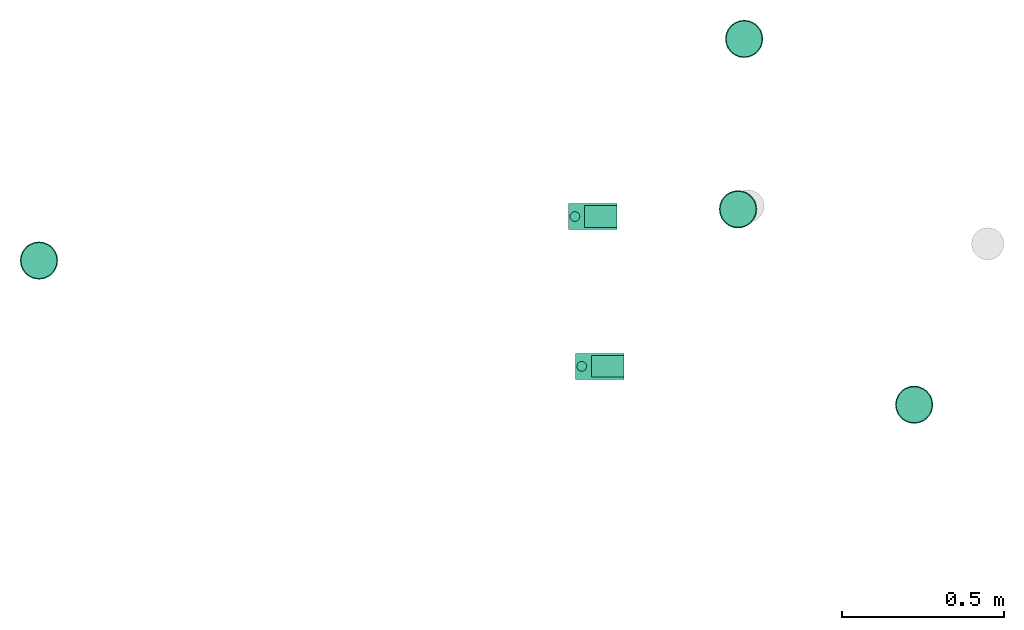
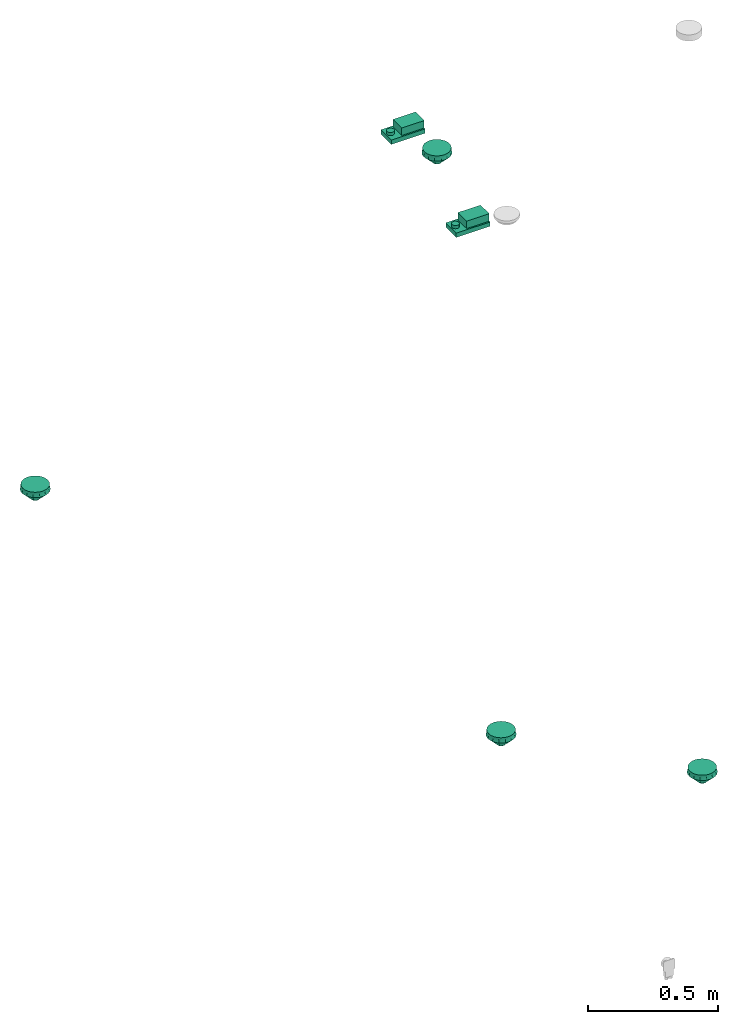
# One storey, part 1 of 3: 6 distribution control elements.
"""IFC2X3 building model written with IfcOpenShell, lengths in millimetres."""

from ifc_helpers import new_model, entity, si_unit, converted_unit, derived_unit, direction, frame, origin_with_axes, place, context, subcontext, project, spatial, open_shell, surface_model, source, transform, mapped, type_object, element, save


model = new_model("IFC2X3")

# Units and contexts
model_context = context("Model", 3, precision=0.01, world=frame((0.0, 4.29681676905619e-09, 0.0)), true_north=direction((4.01073788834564e-13, 1.0)))
plan_context = context("Plan", 3, precision=0.01, world=frame((0.0, 4.29681676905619e-09, 0.0)), true_north=direction((4.01073788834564e-13, 1.0)))
body_context = subcontext(model_context, "Body", "Model", "MODEL_VIEW")
ifc_project = project(units=[converted_unit("PLANEANGLEUNIT", "DEGREE", entity("IfcPositiveLengthMeasure", 0.0174532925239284), si_unit("PLANEANGLEUNIT", "RADIAN"), dimensions=[0, 0, 0, 0, 0, 0, 0]), si_unit("AREAUNIT", "SQUARE_METRE"), si_unit("LENGTHUNIT", "METRE", prefix="MILLI"), si_unit("MASSUNIT", "GRAM", prefix="KILO"), si_unit("POWERUNIT", "WATT"), si_unit("PRESSUREUNIT", "PASCAL", prefix="KILO"), si_unit("FORCEUNIT", "NEWTON", prefix="KILO"), si_unit("ELECTRICVOLTAGEUNIT", "VOLT"), si_unit("ELECTRICCURRENTUNIT", "AMPERE"), si_unit("THERMODYNAMICTEMPERATUREUNIT", "DEGREE_CELSIUS"), si_unit("TIMEUNIT", "SECOND"), si_unit("VOLUMEUNIT", "CUBIC_METRE"), derived_unit("LINEARVELOCITYUNIT", [(si_unit("LENGTHUNIT", "METRE"), 1), (si_unit("TIMEUNIT", "SECOND"), -1)]), derived_unit("VOLUMETRICFLOWRATEUNIT", [(si_unit("VOLUMEUNIT", "CUBIC_METRE"), 1), (si_unit("TIMEUNIT", "SECOND"), -1)]), derived_unit("THERMALTRANSMITTANCEUNIT", [(si_unit("POWERUNIT", "WATT"), 1), (si_unit("THERMODYNAMICTEMPERATUREUNIT", "KELVIN"), -1), (si_unit("AREAUNIT", "SQUARE_METRE"), -1)]), derived_unit("SOUNDPRESSUREUNIT", [(si_unit("PRESSUREUNIT", "PASCAL"), 1)])], contexts=[model_context, plan_context])

# Site, building, storey
site_placement = place(None, frame((0.0, -4.29681676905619e-09, 0.0), z_axis=(0.0, 0.0, 1.0), x_axis=(1.0, 0.0, 0.0)))
site = spatial("IfcSite", under=ifc_project, at=site_placement, Name="ENGM", CompositionType="ELEMENT")
building_placement = place(site_placement, frame((0.0, 4.29681676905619e-09, 0.0), z_axis=(0.0, 0.0, 1.0), x_axis=(1.0, 0.0, 0.0)))
building = spatial("IfcBuilding", under=site, at=building_placement, Name="TS", CompositionType="ELEMENT")
storey_placement = place(building_placement, frame((0.0, 0.0, 204000.0), z_axis=(0.0, 0.0, 1.0), x_axis=(1.0, 0.0, 0.0)))
storey = spatial("IfcBuildingStorey", under=building, at=storey_placement, Name="Nivå D", CompositionType="ELEMENT", Elevation=204000.0)

# Distribution control elements
alarm_type_1 = type_object("IfcAlarmType", Name="Standard", PredefinedType="NOTDEFINED")
shared_shape_1 = source(origin_with_axes(), body_context, "Body", "SurfaceModel", [
    surface_model("IfcShellBasedSurfaceModel", [(8.775, -15.19875, -64.9), (-12.40972, -12.40972, -64.9), (4.54227, -16.952, -64.9), (15.19875, -8.775, -64.9), (12.40972, -12.40972, -64.9), (16.952, -4.54227, -64.9), (-4.54227, 16.952, -64.9), (-16.952, -4.54227, -64.9), (0.0, -17.55, -64.9), (-8.775, -15.19875, -64.9), (-4.54227, -16.952, -64.9), (-15.19875, -8.775, -64.9), (17.55, 0.0, -64.9), (15.19875, 8.775, -64.9), (16.952, 4.54227, -64.9), (0.0, 17.55, -64.9), (12.40972, 12.40972, -64.9), (4.54227, 16.952, -64.9), (8.775, 15.19875, -64.9), (-17.55, 0.0, -64.9), (-15.19875, 8.775, -64.9), (-16.952, 4.54227, -64.9), (-12.40972, 12.40972, -64.9), (-8.775, 15.19875, -64.9), (16.952, 4.54227, -65.1), (0.0, 17.55, -65.1), (4.54227, 16.952, -65.1), (12.40972, 12.40972, -65.1), (8.775, 15.19875, -65.1), (15.19875, 8.775, -65.1), (-12.40972, 12.40972, -65.1), (-4.54227, 16.952, -65.1), (-8.775, 15.19875, -65.1), (-15.19875, 8.775, -65.1), (-17.55, 0.0, -65.1), (-16.952, 4.54227, -65.1), (-16.952, -4.54227, -65.1), (16.952, -4.54227, -65.1), (8.775, -15.19875, -65.1), (15.19875, -8.775, -65.1), (12.40972, -12.40972, -65.1), (-12.40972, -12.40972, -65.1), (4.54227, -16.952, -65.1), (-15.19875, -8.775, -65.1), (-8.775, -15.19875, -65.1), (0.0, -17.55, -65.1), (-4.54227, -16.952, -65.1), (17.55, 0.0, -65.1), (-36.47415, 45.73714, -22.75), (-52.70668, 25.3822, -22.75), (-58.5, 0.0, -22.75), (52.70668, 25.3822, -22.75), (13.01748, 57.03328, -22.75), (-13.01748, 57.03328, -22.75), (36.47415, 45.73714, -22.75), (-52.70668, -25.3822, -22.75), (-36.47415, -45.73714, -22.75), (-13.01748, -57.03328, -22.75), (36.47415, -45.73714, -22.75), (52.70668, -25.3822, -22.75), (58.5, 0.0, -22.75), (13.01748, -57.03328, -22.75), (0.0, 17.55, -65.0), (12.40972, 12.40972, -65.0), (-12.40972, 12.40972, -65.0), (-12.40972, -12.40972, -65.0), (-17.55, 0.0, -65.0), (17.55, 0.0, -65.0), (12.40972, -12.40972, -65.0), (0.0, -17.55, -65.0), (-44.59042, -35.55967, -22.75), (-13.69479, -9.30729, -65.0), (55.60334, -12.6911, -22.75), (14.97986, -6.20486, -65.0), (16.26493, -3.10243, -65.0), (-9.30729, -13.69479, -65.0), (-6.20486, -14.97986, -65.0), (-24.74581, -51.38521, -22.75), (-14.97986, -6.20486, -65.0), (24.74581, -51.38521, -22.75), (9.30729, -13.69479, -65.0), (-55.60334, -12.6911, -22.75), (-16.26493, -3.10243, -65.0), (-3.10243, -16.26493, -65.0), (3.10243, -16.26493, -65.0), (0.0, -57.03328, -22.75), (44.59042, -35.55967, -22.75), (13.69479, -9.30729, -65.0), (6.20486, -14.97986, -65.0), (44.59042, 35.55967, -22.75), (13.69479, 9.30729, -65.0), (-55.60334, 12.6911, -22.75), (-14.97986, 6.20486, -65.0), (-16.26493, 3.10243, -65.0), (9.30729, 13.69479, -65.0), (6.20486, 14.97986, -65.0), (24.74581, 51.38521, -22.75), (14.97986, 6.20486, -65.0), (-24.74581, 51.38521, -22.75), (-9.30729, 13.69479, -65.0), (55.60334, 12.6911, -22.75), (16.26493, 3.10243, -65.0), (3.10243, 16.26493, -65.0), (-3.10243, 16.26493, -65.0), (0.0, 57.03328, -22.75), (-44.59042, 35.55967, -22.75), (-13.69479, 9.30729, -65.0), (-6.20486, 14.97986, -65.0), (-28.275, 48.97374, -16.25), (-32.41056, 45.80041, -16.25), (-13.88456, 54.72206, -16.25), (-49.79102, 26.30191, -16.25), (-39.98689, 39.98689, -16.25), (-48.97374, 28.275, -16.25), (-37.1285, 42.18021, -16.25), (-35.38305, 44.36894, -16.25), (-56.2774, 2.07059, -16.25), (-56.75, 0.0, -16.25), (-56.55, 0.0, -16.25), (-51.91976, 21.16268, -16.25), (-51.12998, 24.6229, -16.25), (-54.62311, 14.63622, -16.25), (28.275, 48.97374, -16.25), (14.63622, 54.62311, -16.25), (13.88456, 54.72206, -16.25), (54.62311, -14.63622, -16.25), (56.2774, -2.07059, -16.25), (51.91976, -21.16268, -16.25), (12.62806, 55.32716, -16.25), (9.2884, 55.32716, -16.25), (49.79102, 26.30191, -16.25), (39.98689, 39.98689, -16.25), (37.1285, 42.18021, -16.25), (56.55, 0.0, -16.25), (56.75, 0.0, -16.25), (56.2774, 2.07059, -16.25), (39.98689, -39.98689, -16.25), (49.79102, -26.30191, -16.25), (37.1285, -42.18021, -16.25), (35.38305, 44.36894, -16.25), (32.41056, 45.80041, -16.25), (35.38305, -44.36894, -16.25), (32.41056, -45.80041, -16.25), (-56.2774, -2.07059, -16.25), (-49.79102, -26.30191, -16.25), (-51.91976, -21.16268, -16.25), (-51.12998, -24.6229, -16.25), (-37.1285, -42.18021, -16.25), (-35.38305, -44.36894, -16.25), (-32.41056, -45.80041, -16.25), (-13.88456, -54.72206, -16.25), (-28.275, -48.97374, -16.25), (-14.63622, -54.62311, -16.25), (51.12998, -24.6229, -16.25), (-39.98689, -39.98689, -16.25), (-48.97374, -28.275, -16.25), (-9.2884, 55.32716, -16.25), (-12.62806, 55.32716, -16.25), (28.275, -48.97374, -16.25), (13.88456, -54.72206, -16.25), (14.63622, -54.62311, -16.25), (48.97374, -28.275, -16.25), (12.62806, -55.32716, -16.25), (9.2884, -55.32716, -16.25), (0.0, -56.55, -16.25), (-9.2884, -55.32716, -16.25), (-12.62806, -55.32716, -16.25), (-54.62311, -14.63622, -16.25), (-14.63622, 54.62311, -16.25), (0.0, 56.55, -16.25), (48.97374, 28.275, -16.25), (51.91976, 21.16268, -16.25), (51.12998, 24.6229, -16.25), (54.62311, 14.63622, -16.25), (29.15, 50.48928, -22.75), (33.43697, 47.19977, -22.75), (14.29509, 56.41801, -22.75), (51.34019, 27.09572, -22.75), (41.22432, 41.22432, -22.75), (50.48928, 29.15, -22.75), (58.0274, 2.07059, -22.75), (58.3, 0.0, -22.75), (38.25759, 43.50078, -22.75), (-33.43697, 47.19977, -22.75), (-38.25759, 43.50078, -22.75), (56.31348, 15.08915, -22.75), (53.51269, 21.85086, -22.75), (-14.29509, -56.41801, -22.75), (-9.62167, -57.03328, -22.75), (-29.15, 50.48928, -22.75), (-15.08915, 56.31348, -22.75), (-14.29509, 56.41801, -22.75), (-56.31348, -15.08915, -22.75), (-58.0274, -2.07059, -22.75), (-53.51269, -21.85086, -22.75), (-9.62167, 57.03328, -22.75), (-51.34019, 27.09572, -22.75), (-41.22432, 41.22432, -22.75), (-41.22432, -41.22432, -22.75), (-51.34019, -27.09572, -22.75), (-38.25759, -43.50078, -22.75), (-58.3, 0.0, -22.75), (-58.0274, 2.07059, -22.75), (58.0274, -2.07059, -22.75), (-33.43697, -47.19977, -22.75), (51.34019, -27.09572, -22.75), (53.51269, -21.85086, -22.75), (41.22432, -41.22432, -22.75), (38.25759, -43.50078, -22.75), (29.15, -50.48928, -22.75), (15.08915, -56.31348, -22.75), (14.29509, -56.41801, -22.75), (9.62167, -57.03328, -22.75), (33.43697, -47.19977, -22.75), (50.48928, -29.15, -22.75), (9.62167, 57.03328, -22.75), (-29.15, -50.48928, -22.75), (-15.08915, -56.31348, -22.75), (-50.48928, -29.15, -22.75), (0.0, -58.3, -22.75), (56.31348, -15.08915, -22.75), (15.08915, 56.31348, -22.75), (0.0, 58.3, -22.75), (-50.48928, 29.15, -22.75), (-53.51269, 21.85086, -22.75), (-56.31348, 15.08915, -22.75), (53.15004, -15.77246, -16.25), (43.25652, -34.49592, -16.25), (-54.78902, -16.25884, -22.75), (-53.93999, -12.31145, -16.25), (24.00555, -49.84805, -16.25), (0.0, -55.32716, -16.25), (-24.00555, -49.84805, -16.25), (-43.25652, -34.49592, -16.25), (-53.15004, 15.77246, -16.25), (-43.25652, 34.49592, -16.25), (54.78902, 16.25884, -22.75), (53.93999, 12.31145, -16.25), (-24.00555, 49.84805, -16.25), (0.0, 55.32716, -16.25), (24.00555, 49.84805, -16.25), (43.25652, 34.49592, -16.25), (-27.65, 47.8912, -9.75), (-31.6774, 44.80087, -9.75), (-13.59132, 53.51067, -9.75), (-48.68446, 25.73491, -9.75), (-39.103, 39.103, -9.75), (-47.8912, 27.65, -9.75), (-34.60368, 43.39165, -9.75), (-36.322, 41.23694, -9.75), (-55.0274, 2.07059, -9.75), (-55.5, 0.0, -9.75), (-55.3, 0.0, -9.75), (-50.00377, 24.08055, -9.75), (-50.78195, 20.67112, -9.75), (-53.4157, 14.31269, -9.75), (27.65, 47.8912, -9.75), (14.31269, 53.4157, -9.75), (13.59132, 53.51067, -9.75), (53.4157, -14.31269, -9.75), (55.0274, -2.07059, -9.75), (50.78195, -20.67112, -9.75), (9.05035, 54.1085, -9.75), (12.34991, 54.1085, -9.75), (48.68446, 25.73491, -9.75), (39.103, 39.103, -9.75), (36.322, 41.23694, -9.75), (39.103, -39.103, -9.75), (48.68446, -25.73491, -9.75), (36.322, -41.23694, -9.75), (34.60368, 43.39165, -9.75), (31.6774, 44.80087, -9.75), (55.0274, 2.07059, -9.75), (55.3, 0.0, -9.75), (55.5, 0.0, -9.75), (34.60368, -43.39165, -9.75), (31.6774, -44.80087, -9.75), (-55.0274, -2.07059, -9.75), (-48.68446, -25.73491, -9.75), (-50.78195, -20.67112, -9.75), (-50.00377, -24.08055, -9.75), (-12.34991, -54.1085, -9.75), (-9.05035, -54.1085, -9.75), (-13.59132, -53.51067, -9.75), (-27.65, -47.8912, -9.75), (-14.31269, -53.4157, -9.75), (50.00377, -24.08055, -9.75), (-31.6774, -44.80087, -9.75), (-39.103, -39.103, -9.75), (-36.322, -41.23694, -9.75), (-47.8912, -27.65, -9.75), (-9.05035, 54.1085, -9.75), (-12.34991, 54.1085, -9.75), (27.65, -47.8912, -9.75), (13.59132, -53.51067, -9.75), (14.31269, -53.4157, -9.75), (47.8912, -27.65, -9.75), (0.0, -55.3, -9.75), (9.05035, -54.1085, -9.75), (12.34991, -54.1085, -9.75), (-34.60368, -43.39165, -9.75), (-53.4157, -14.31269, -9.75), (-14.31269, 53.4157, -9.75), (0.0, 55.3, -9.75), (47.8912, 27.65, -9.75), (50.78195, 20.67112, -9.75), (50.00377, 24.08055, -9.75), (53.4157, 14.31269, -9.75), (51.93259, -15.62982, -9.75), (42.30373, -33.7361, -9.75), (-53.10225, -15.98184, -16.25), (-52.75189, -12.04027, -9.75), (23.4768, -48.75007, -9.75), (53.93999, -12.31145, -16.25), (0.0, -54.1085, -9.75), (-23.4768, -48.75007, -9.75), (-42.30373, -33.7361, -9.75), (-51.93259, 15.62982, -9.75), (-42.30373, 33.7361, -9.75), (53.10225, 15.98184, -16.25), (52.75189, 12.04027, -9.75), (-23.4768, 48.75007, -9.75), (-53.93999, 12.31145, -16.25), (0.0, 54.1085, -9.75), (23.4768, 48.75007, -9.75), (42.30373, 33.7361, -9.75), (14.36446, -53.60888, 0.0), (27.75, -48.06441, 0.0), (39.24443, -39.24443, 0.0), (0.0, -55.5, 0.0), (48.06441, -27.75, 0.0), (53.60888, -14.36446, 0.0), (55.5, 0.0, 0.0), (-27.75, -48.06441, 0.0), (-14.36446, -53.60888, 0.0), (-48.06441, -27.75, 0.0), (-39.24443, -39.24443, 0.0), (-53.60888, -14.36446, 0.0), (48.06441, 27.75, 0.0), (14.36446, 53.60888, 0.0), (39.24443, 39.24443, 0.0), (0.0, 55.5, 0.0), (27.75, 48.06441, 0.0), (-27.75, 48.06441, 0.0), (-55.5, 0.0, 0.0), (-48.06441, 27.75, 0.0), (-53.60888, 14.36446, 0.0), (-39.24443, 39.24443, 0.0), (-14.36446, 53.60888, 0.0), (53.60888, 14.36446, 0.0), (14.36446, 53.60888, -9.75), (-27.75, 48.06441, -9.75), (0.0, 55.5, -9.75), (39.24443, 39.24443, -9.75), (27.75, 48.06441, -9.75), (48.06441, 27.75, -9.75), (53.60888, 14.36446, -9.75), (-48.06441, 27.75, -9.75), (-39.24443, 39.24443, -9.75), (-14.36446, 53.60888, -9.75), (-53.60888, 14.36446, -9.75), (53.60888, -14.36446, -9.75), (48.06441, -27.75, -9.75), (-53.60888, -14.36446, -9.75), (39.24443, -39.24443, -9.75), (27.75, -48.06441, -9.75), (14.36446, -53.60888, -9.75), (-27.75, -48.06441, -9.75), (-48.06441, -27.75, -9.75), (-39.24443, -39.24443, -9.75), (0.0, -55.5, -9.75), (-14.36446, -53.60888, -9.75)], [open_shell([[[0, 1, 2]], [[3, 0, 4]], [[0, 5, 1]], [[5, 0, 3]], [[5, 6, 7]], [[8, 9, 10]], [[9, 8, 1]], [[1, 7, 11]], [[1, 8, 2]], [[5, 7, 1]], [[5, 12, 6]], [[13, 6, 14]], [[15, 13, 16]], [[17, 15, 16]], [[17, 16, 18]], [[6, 13, 15]], [[19, 20, 21]], [[19, 7, 20]], [[22, 6, 23]], [[7, 22, 20]], [[6, 22, 7]], [[12, 14, 6]], [[24, 25, 26]], [[27, 26, 28]], [[29, 24, 26]], [[29, 26, 27]], [[25, 24, 30]], [[31, 30, 32]], [[31, 25, 30]], [[33, 34, 35]], [[36, 34, 33]], [[33, 30, 36]], [[30, 24, 37]], [[36, 30, 37]], [[38, 37, 39]], [[36, 37, 38]], [[38, 39, 40]], [[41, 38, 42]], [[36, 41, 43]], [[36, 38, 41]], [[44, 45, 46]], [[45, 44, 41]], [[42, 45, 41]], [[37, 24, 47]], [[36, 7, 34]], [[43, 11, 36]], [[9, 41, 44]], [[43, 41, 1]], [[10, 44, 46]], [[36, 11, 7]], [[7, 19, 34]], [[10, 9, 44]], [[1, 41, 9]], [[1, 11, 43]], [[8, 10, 46]], [[46, 45, 8]], [[42, 2, 45]], [[38, 0, 42]], [[3, 40, 39]], [[38, 40, 4]], [[5, 39, 37]], [[38, 4, 0]], [[0, 2, 42]], [[12, 5, 37]], [[3, 39, 5]], [[3, 4, 40]], [[47, 12, 37]], [[45, 2, 8]], [[24, 14, 47]], [[29, 13, 24]], [[18, 27, 28]], [[29, 27, 16]], [[17, 28, 26]], [[24, 13, 14]], [[14, 12, 47]], [[17, 18, 28]], [[16, 27, 18]], [[16, 13, 29]], [[15, 17, 26]], [[26, 25, 15]], [[31, 6, 25]], [[32, 23, 31]], [[20, 30, 33]], [[32, 30, 22]], [[21, 33, 35]], [[32, 22, 23]], [[23, 6, 31]], [[19, 21, 35]], [[20, 33, 21]], [[20, 22, 30]], [[34, 19, 35]], [[25, 6, 15]], [[48, 49, 50]], [[48, 50, 51]], [[52, 53, 51]], [[51, 54, 52]], [[53, 48, 51]], [[50, 55, 51]], [[55, 56, 57]], [[57, 58, 51]], [[59, 60, 58]], [[60, 51, 58]], [[57, 61, 58]], [[51, 55, 57]], [[62, 63, 64]], [[65, 66, 64]], [[64, 63, 65]], [[67, 68, 69]], [[69, 65, 67]], [[67, 65, 63]], [[65, 70, 71]], [[72, 73, 74]], [[75, 76, 77]], [[55, 78, 71]], [[79, 80, 58]], [[78, 55, 81]], [[81, 82, 78]], [[57, 76, 83]], [[84, 85, 69]], [[59, 73, 72]], [[55, 71, 70]], [[69, 85, 83]], [[60, 74, 67]], [[68, 86, 58]], [[86, 68, 87]], [[56, 65, 75]], [[87, 59, 86]], [[60, 72, 74]], [[65, 56, 70]], [[66, 82, 50]], [[50, 82, 81]], [[56, 75, 77]], [[80, 79, 88]], [[61, 84, 88]], [[80, 68, 58]], [[87, 73, 59]], [[76, 57, 77]], [[85, 84, 61]], [[57, 83, 85]], [[79, 61, 88]], [[63, 89, 90]], [[91, 92, 93]], [[94, 95, 96]], [[51, 97, 90]], [[98, 99, 48]], [[97, 51, 100]], [[100, 101, 97]], [[52, 95, 102]], [[103, 104, 62]], [[49, 92, 91]], [[51, 90, 89]], [[62, 104, 102]], [[50, 93, 66]], [[64, 105, 48]], [[105, 64, 106]], [[54, 63, 94]], [[106, 49, 105]], [[50, 91, 93]], [[63, 54, 89]], [[67, 101, 60]], [[60, 101, 100]], [[54, 94, 96]], [[99, 98, 107]], [[53, 103, 107]], [[99, 64, 48]], [[106, 92, 49]], [[95, 52, 96]], [[104, 103, 53]], [[52, 102, 104]], [[98, 53, 107]], [[108, 109, 110]], [[111, 112, 113]], [[114, 109, 115]], [[116, 117, 118]], [[119, 111, 120]], [[121, 116, 119]], [[122, 123, 124]], [[125, 126, 127]], [[128, 129, 124]], [[130, 131, 132]], [[133, 134, 135]], [[136, 137, 138]], [[132, 139, 140]], [[141, 138, 142]], [[112, 111, 114]], [[117, 143, 118]], [[144, 145, 146]], [[147, 148, 149]], [[150, 151, 152]], [[127, 137, 153]], [[151, 150, 149]], [[154, 147, 144]], [[154, 144, 155]], [[110, 156, 157]], [[158, 159, 160]], [[133, 126, 134]], [[161, 137, 136]], [[162, 159, 163]], [[164, 163, 165]], [[158, 142, 159]], [[150, 166, 165]], [[167, 145, 143]], [[108, 110, 168]], [[169, 156, 129]], [[122, 124, 140]], [[131, 130, 170]], [[130, 171, 172]], [[173, 171, 135]], [[174, 175, 176]], [[177, 178, 179]], [[180, 60, 181]], [[54, 182, 175]], [[48, 183, 184]], [[185, 180, 186]], [[57, 187, 188]], [[189, 190, 191]], [[192, 193, 194]], [[195, 191, 53]], [[196, 197, 184]], [[198, 199, 200]], [[51, 186, 177]], [[201, 50, 202]], [[203, 181, 60]], [[178, 177, 182]], [[204, 56, 200]], [[205, 206, 59]], [[205, 207, 208]], [[209, 210, 211]], [[212, 211, 61]], [[209, 211, 213]], [[194, 199, 55]], [[207, 205, 214]], [[215, 52, 176]], [[216, 187, 217]], [[201, 193, 50]], [[198, 218, 199]], [[208, 58, 213]], [[219, 188, 212]], [[204, 187, 216]], [[220, 206, 203]], [[174, 176, 221]], [[222, 215, 195]], [[189, 191, 183]], [[197, 196, 223]], [[196, 224, 49]], [[225, 224, 202]], [[153, 59, 226]], [[141, 86, 227]], [[228, 146, 229]], [[162, 79, 230]], [[134, 226, 72]], [[72, 60, 134]], [[226, 59, 72]], [[230, 58, 141]], [[59, 153, 227]], [[141, 58, 86]], [[85, 231, 166]], [[166, 57, 85]], [[148, 77, 232]], [[56, 233, 70]], [[146, 70, 233]], [[57, 232, 77]], [[146, 55, 70]], [[50, 229, 117]], [[162, 61, 79]], [[232, 57, 166]], [[58, 230, 79]], [[146, 228, 55]], [[56, 148, 233]], [[59, 227, 86]], [[148, 56, 77]], [[162, 231, 61]], [[50, 228, 229]], [[61, 231, 85]], [[120, 49, 234]], [[115, 105, 235]], [[236, 172, 237]], [[157, 98, 238]], [[117, 234, 91]], [[91, 50, 117]], [[234, 49, 91]], [[238, 48, 115]], [[49, 120, 235]], [[115, 48, 105]], [[104, 239, 128]], [[128, 52, 104]], [[139, 96, 240]], [[54, 241, 89]], [[172, 89, 241]], [[52, 240, 96]], [[172, 51, 89]], [[60, 237, 134]], [[157, 53, 98]], [[240, 52, 128]], [[48, 238, 98]], [[172, 236, 51]], [[54, 139, 241]], [[49, 235, 105]], [[139, 54, 96]], [[157, 239, 53]], [[60, 236, 237]], [[53, 239, 104]], [[125, 133, 181]], [[125, 220, 161]], [[158, 136, 207]], [[214, 136, 161]], [[160, 158, 209]], [[220, 125, 181]], [[214, 161, 220]], [[207, 209, 158]], [[136, 214, 207]], [[210, 160, 209]], [[210, 219, 164]], [[160, 210, 164]], [[151, 152, 217]], [[151, 216, 154]], [[167, 155, 218]], [[198, 155, 154]], [[118, 167, 192]], [[152, 219, 217]], [[151, 217, 216]], [[155, 198, 218]], [[118, 192, 201]], [[192, 167, 218]], [[198, 154, 216]], [[164, 219, 152]], [[121, 118, 201]], [[121, 225, 113]], [[108, 112, 197]], [[223, 112, 113]], [[168, 108, 189]], [[225, 121, 201]], [[223, 113, 225]], [[197, 189, 108]], [[112, 223, 197]], [[190, 168, 189]], [[190, 222, 169]], [[168, 190, 169]], [[122, 123, 221]], [[122, 174, 131]], [[173, 170, 179]], [[178, 170, 131]], [[133, 173, 185]], [[123, 222, 221]], [[122, 221, 174]], [[170, 178, 179]], [[133, 185, 181]], [[185, 173, 179]], [[178, 131, 174]], [[169, 222, 123]], [[242, 243, 244]], [[245, 246, 247]], [[243, 248, 249]], [[250, 251, 252]], [[253, 254, 245]], [[255, 250, 254]], [[256, 257, 258]], [[259, 260, 261]], [[262, 258, 263]], [[264, 265, 266]], [[267, 268, 269]], [[266, 270, 271]], [[272, 273, 274]], [[275, 269, 276]], [[246, 245, 249]], [[277, 252, 251]], [[278, 279, 280]], [[281, 282, 283]], [[283, 284, 285]], [[261, 268, 286]], [[284, 283, 287]], [[288, 289, 278]], [[288, 278, 290]], [[244, 291, 292]], [[293, 294, 295]], [[273, 260, 274]], [[268, 267, 296]], [[294, 293, 276]], [[297, 298, 282]], [[298, 299, 294]], [[300, 287, 289]], [[301, 279, 277]], [[242, 244, 302]], [[303, 291, 262]], [[256, 258, 271]], [[265, 264, 304]], [[264, 305, 306]], [[307, 305, 272]], [[122, 140, 124]], [[170, 130, 131]], [[135, 134, 133]], [[140, 139, 132]], [[172, 171, 130]], [[173, 135, 171]], [[110, 157, 156]], [[108, 168, 110]], [[167, 143, 145]], [[114, 111, 112]], [[154, 144, 147]], [[115, 109, 114]], [[116, 118, 117]], [[150, 165, 166]], [[131, 130, 132]], [[126, 133, 134]], [[137, 127, 153]], [[145, 144, 146]], [[159, 158, 160]], [[163, 159, 162]], [[158, 159, 142]], [[136, 138, 137]], [[136, 137, 161]], [[124, 129, 128]], [[151, 150, 152]], [[118, 143, 117]], [[155, 144, 154]], [[147, 149, 148]], [[164, 165, 163]], [[151, 149, 150]], [[138, 141, 142]], [[125, 127, 126]], [[122, 124, 123]], [[169, 129, 156]], [[108, 110, 109]], [[112, 111, 113]], [[111, 119, 120]], [[121, 119, 116]], [[286, 153, 308]], [[275, 227, 309]], [[310, 280, 311]], [[299, 230, 312]], [[274, 308, 313]], [[313, 134, 274]], [[308, 153, 313]], [[312, 141, 275]], [[153, 286, 309]], [[275, 141, 227]], [[231, 314, 281]], [[281, 166, 231]], [[300, 232, 315]], [[148, 316, 233]], [[280, 233, 316]], [[166, 315, 232]], [[280, 146, 233]], [[117, 311, 251]], [[299, 162, 230]], [[315, 166, 281]], [[141, 312, 230]], [[280, 310, 146]], [[148, 300, 316]], [[153, 309, 227]], [[300, 148, 232]], [[299, 314, 162]], [[117, 310, 311]], [[162, 314, 231]], [[253, 120, 317]], [[248, 235, 318]], [[319, 306, 320]], [[292, 238, 321]], [[251, 317, 322]], [[322, 117, 251]], [[317, 120, 322]], [[321, 115, 248]], [[120, 253, 318]], [[248, 115, 235]], [[239, 323, 263]], [[263, 128, 239]], [[270, 240, 324]], [[139, 325, 241]], [[306, 241, 325]], [[128, 324, 240]], [[306, 172, 241]], [[134, 320, 274]], [[292, 157, 238]], [[324, 128, 263]], [[115, 321, 238]], [[306, 319, 172]], [[139, 270, 325]], [[120, 318, 235]], [[270, 139, 240]], [[292, 323, 157]], [[134, 319, 320]], [[157, 323, 239]], [[259, 273, 133]], [[259, 125, 296]], [[293, 267, 136]], [[161, 267, 296]], [[295, 293, 158]], [[125, 259, 133]], [[161, 296, 125]], [[136, 158, 293]], [[267, 161, 136]], [[160, 295, 158]], [[160, 164, 297]], [[295, 160, 297]], [[284, 285, 152]], [[284, 151, 288]], [[301, 290, 155]], [[154, 290, 288]], [[252, 301, 167]], [[285, 164, 152]], [[284, 152, 151]], [[290, 154, 155]], [[252, 167, 118]], [[167, 301, 155]], [[154, 288, 151]], [[297, 164, 285]], [[255, 252, 118]], [[255, 121, 247]], [[242, 246, 112]], [[113, 246, 247]], [[302, 242, 108]], [[121, 255, 118]], [[113, 247, 121]], [[112, 108, 242]], [[246, 113, 112]], [[168, 302, 108]], [[168, 169, 303]], [[302, 168, 303]], [[256, 257, 123]], [[256, 122, 265]], [[307, 304, 170]], [[131, 304, 265]], [[273, 307, 173]], [[257, 169, 123]], [[256, 123, 122]], [[304, 131, 170]], [[273, 173, 133]], [[173, 307, 170]], [[131, 265, 122]], [[303, 169, 257]], [[326, 327, 328]], [[329, 326, 328]], [[330, 331, 332]], [[329, 328, 330]], [[333, 330, 332]], [[329, 333, 334]], [[329, 330, 333]], [[333, 335, 336]], [[335, 333, 337]], [[332, 337, 333]], [[332, 338, 337]], [[337, 338, 339]], [[339, 338, 340]], [[339, 341, 337]], [[339, 340, 342]], [[343, 337, 341]], [[344, 345, 346]], [[337, 345, 344]], [[345, 343, 347]], [[343, 345, 337]], [[341, 348, 343]], [[338, 332, 349]], [[350, 351, 352]], [[353, 350, 354]], [[355, 356, 350]], [[355, 350, 353]], [[357, 350, 356]], [[351, 357, 358]], [[351, 359, 352]], [[357, 251, 360]], [[357, 351, 350]], [[251, 357, 356]], [[356, 274, 251]], [[274, 361, 362]], [[363, 274, 362]], [[364, 365, 366]], [[362, 364, 363]], [[366, 367, 364]], [[368, 367, 369]], [[368, 363, 364]], [[367, 370, 371]], [[368, 364, 367]], [[366, 370, 367]], [[274, 363, 251]], [[363, 337, 251]], [[368, 335, 363]], [[333, 369, 367]], [[368, 369, 336]], [[334, 367, 371]], [[363, 335, 337]], [[337, 344, 251]], [[334, 333, 367]], [[336, 369, 333]], [[336, 335, 368]], [[329, 334, 371]], [[371, 370, 329]], [[366, 326, 370]], [[365, 327, 366]], [[330, 364, 362]], [[365, 364, 328]], [[331, 362, 361]], [[365, 328, 327]], [[327, 326, 366]], [[332, 331, 361]], [[330, 362, 331]], [[330, 328, 364]], [[274, 332, 361]], [[370, 326, 329]], [[356, 349, 274]], [[355, 338, 356]], [[342, 353, 354]], [[355, 353, 340]], [[339, 354, 350]], [[356, 338, 349]], [[349, 332, 274]], [[339, 342, 354]], [[340, 353, 342]], [[340, 338, 355]], [[341, 339, 350]], [[350, 352, 341]], [[359, 348, 352]], [[351, 343, 359]], [[345, 358, 357]], [[351, 358, 347]], [[346, 357, 360]], [[351, 347, 343]], [[343, 348, 359]], [[344, 346, 360]], [[345, 357, 346]], [[345, 347, 358]], [[251, 344, 360]], [[352, 348, 341]]])]),
])
for number, where, z_axis, x_axis, name in (
    (1, (598298.42736, 403373.24315, 0.0), (0.0, 0.0, 1.0), (1.0, 0.0, 0.0), "Standard"),
    (2, (597755.31934, 403975.84706, 0.0), (0.0, 0.0, 1.0), (1.0, 0.0, 0.0), "Standard"),
    (3, (597774.21314, 404501.08552, 2400.0), (0.0, 0.0, 1.0), (1.0, 0.0, 0.0), "Standard"),
):
    element("IfcDistributionControlElement", number, at=place(storey_placement, frame(where, z_axis=z_axis, x_axis=x_axis)), inside=storey, type_object=alarm_type_1, Name=name, context=body_context, shape_type="MappedRepresentation", body=[
        mapped(shared_shape_1, transform((0.0, 0.0, 0.0), scale=1.0)),
    ])
alarm_type_2 = type_object("IfcAlarmType", Name="Brannalarm Multikriteriedetektor OT Blue", PredefinedType="NOTDEFINED")
distribution_control_element_placement = place(storey_placement, frame((595600.16946, 403817.73985, 2000.0), z_axis=(0.0, 0.0, 1.0), x_axis=(1.0, 0.0, 0.0)))
element("IfcDistributionControlElement", 4, at=distribution_control_element_placement, inside=storey, type_object=alarm_type_2, Name="Brannalarm Multikriteriedetektor OT Blue", context=body_context, shape_type="MappedRepresentation", body=[
    mapped(shared_shape_1, transform((0.0, 0.0, 0.0), scale=1.0)),
])
alarm_type_3 = type_object("IfcAlarmType", Name="Brann Spjeld", PredefinedType="NOTDEFINED")
shared_shape_2 = source(origin_with_axes(), body_context, "Body", "SurfaceModel", [
    surface_model("IfcShellBasedSurfaceModel", [(-72.68295, -12.99038, 40.0), (-80.18294, -15.0, 40.0), (-76.30066, -14.48889, 40.0), (-65.69406, -3.88229, 40.0), (-69.57634, -10.6066, 40.0), (-94.67183, -3.88229, 40.0), (-95.18294, 0.0, 40.0), (-67.19256, -7.5, 40.0), (-87.68295, -12.99038, 40.0), (-84.06523, -14.48889, 40.0), (-93.17333, -7.5, 40.0), (-90.78954, -10.6066, 40.0), (-65.18294, 0.0, 40.0), (-65.69406, 3.88229, 40.0), (-67.19256, 7.5, 40.0), (-72.68295, 12.99038, 40.0), (-69.57634, 10.6066, 40.0), (-76.30066, 14.48889, 40.0), (-87.68295, 12.99038, 40.0), (-80.18294, 15.0, 40.0), (-93.17333, 7.5, 40.0), (-94.67183, 3.88229, 40.0), (-90.78954, 10.6066, 40.0), (-84.06523, 14.48889, 40.0), (-76.30066, 14.48889, 0.0), (-95.18294, 0.0, 0.0), (-80.18294, 15.0, 0.0), (-67.19256, 7.5, 0.0), (-72.68295, 12.99038, 0.0), (-69.57634, 10.6066, 0.0), (-94.67183, -3.88229, 0.0), (-87.68295, 12.99038, 0.0), (-93.17333, 7.5, 0.0), (-90.78954, 10.6066, 0.0), (-84.06523, 14.48889, 0.0), (-94.67183, 3.88229, 0.0), (-65.69406, 3.88229, 0.0), (-65.69406, -3.88229, 0.0), (-72.68295, -12.99038, 0.0), (-67.19256, -7.5, 0.0), (-69.57634, -10.6066, 0.0), (-76.30066, -14.48889, 0.0), (-93.17333, -7.5, 0.0), (-87.68295, -12.99038, 0.0), (-90.78954, -10.6066, 0.0), (-80.18294, -15.0, 0.0), (-84.06523, -14.48889, 0.0), (-65.18294, 0.0, 0.0), (50.0, -33.30706, 60.0), (50.0, 33.35938, 60.0), (-50.0, 33.35938, 60.0), (-50.0, -33.30706, 60.0), (-50.0, -33.30706, 25.0), (-50.0, 33.35938, 25.0), (50.0, 33.35938, 25.0), (50.0, -33.30706, 25.0), (50.14702, -40.00696, 25.0), (50.14702, 39.99304, 25.0), (-99.85298, 39.99304, 25.0), (-99.85298, -40.00696, 25.0), (-99.85298, -40.00696, 5.0), (-99.85298, 39.99304, 5.0), (50.14702, 39.99304, 5.0), (50.14702, -40.00696, 5.0)], [open_shell([[[0, 1, 2]], [[3, 0, 4]], [[5, 0, 6]], [[3, 4, 7]], [[0, 3, 6]], [[1, 8, 9]], [[8, 1, 5]], [[8, 10, 11]], [[10, 8, 5]], [[1, 0, 5]], [[3, 12, 13]], [[6, 3, 14]], [[15, 14, 16]], [[6, 14, 17]], [[17, 14, 15]], [[18, 17, 19]], [[6, 20, 21]], [[6, 17, 20]], [[20, 18, 22]], [[17, 18, 20]], [[19, 23, 18]], [[14, 3, 13]], [[24, 25, 26]], [[27, 24, 28]], [[25, 24, 27]], [[27, 28, 29]], [[30, 25, 27]], [[31, 32, 33]], [[31, 34, 26]], [[32, 25, 35]], [[32, 31, 26]], [[25, 32, 26]], [[27, 36, 30]], [[30, 36, 37]], [[38, 37, 39]], [[30, 37, 38]], [[38, 39, 40]], [[30, 38, 41]], [[42, 43, 44]], [[43, 42, 30]], [[43, 45, 46]], [[45, 43, 30]], [[30, 41, 45]], [[37, 36, 47]], [[5, 30, 42]], [[44, 10, 42]], [[8, 43, 46]], [[44, 43, 11]], [[9, 46, 45]], [[30, 6, 25]], [[30, 5, 6]], [[42, 10, 5]], [[44, 11, 10]], [[8, 11, 43]], [[46, 9, 8]], [[45, 1, 9]], [[2, 41, 38]], [[40, 0, 38]], [[7, 39, 37]], [[40, 39, 4]], [[3, 37, 47]], [[41, 2, 1]], [[38, 0, 2]], [[40, 4, 0]], [[39, 7, 4]], [[3, 7, 37]], [[47, 12, 3]], [[41, 1, 45]], [[36, 13, 47]], [[27, 14, 36]], [[17, 24, 26]], [[29, 16, 27]], [[36, 14, 13]], [[13, 12, 47]], [[28, 15, 16]], [[28, 24, 15]], [[24, 17, 15]], [[16, 14, 27]], [[16, 29, 28]], [[26, 19, 17]], [[23, 34, 31]], [[33, 18, 31]], [[20, 32, 35]], [[33, 32, 22]], [[21, 35, 25]], [[34, 23, 19]], [[31, 18, 23]], [[33, 22, 18]], [[32, 20, 22]], [[21, 20, 35]], [[25, 6, 21]], [[34, 19, 26]], [[48, 49, 50]], [[50, 51, 48]], [[52, 53, 54]], [[54, 55, 52]], [[50, 49, 54]], [[54, 53, 50]], [[51, 50, 53]], [[53, 52, 51]], [[48, 51, 52]], [[52, 55, 48]], [[49, 48, 55]], [[55, 54, 49]], [[56, 57, 58]], [[58, 59, 56]], [[60, 61, 62]], [[62, 63, 60]], [[58, 57, 62]], [[62, 61, 58]], [[59, 58, 61]], [[61, 60, 59]], [[56, 59, 60]], [[60, 63, 56]], [[57, 56, 63]], [[63, 62, 57]]])]),
])
for number, where, z_axis, x_axis in (
    (5, (597332.67931, 403953.52276, 2956.01297000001), (0.0, 0.0, 1.0), (1.0, 0.0, 0.0)),
    (6, (597353.66214, 403491.37711, 2793.03818999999), (0.0, 0.0, 1.0), (1.0, 0.0, 0.0)),
):
    element("IfcDistributionControlElement", number, at=place(storey_placement, frame(where, z_axis=z_axis, x_axis=x_axis)), inside=storey, type_object=alarm_type_3, Name="Brann Spjeld", context=body_context, shape_type="MappedRepresentation", body=[
        mapped(shared_shape_2, transform((0.0, 0.0, 0.0), scale=1.0)),
    ])

save(model, "model.ifc")
